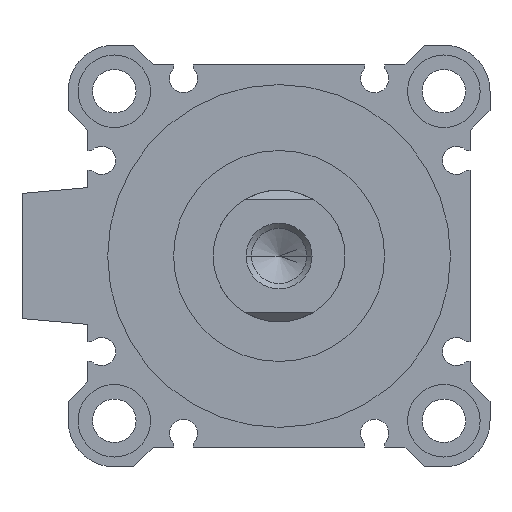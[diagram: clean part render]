
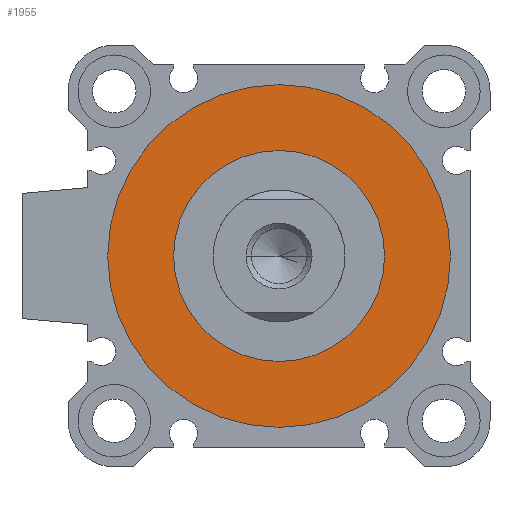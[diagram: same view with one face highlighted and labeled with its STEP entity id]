
A CAD part, left-side view. The second image highlights one B-rep face of the part: STEP entity #1955.
In plain terms, the highlighted planar face has unit normal (-1, 0, 0).
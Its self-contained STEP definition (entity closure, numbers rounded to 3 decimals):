
#60 = DIRECTION ( 'NONE',  ( 0., 0., -1. ) ) ;
#98 = EDGE_LOOP ( 'NONE', ( #4263, #2964 ) ) ;
#433 = AXIS2_PLACEMENT_3D ( 'NONE', #1023, #1400, #3761 ) ;
#659 = FACE_OUTER_BOUND ( 'NONE', #1790, .T. ) ;
#677 = CARTESIAN_POINT ( 'NONE',  ( 3., 0., 0. ) ) ;
#688 = VERTEX_POINT ( 'NONE', #3929 ) ;
#850 = AXIS2_PLACEMENT_3D ( 'NONE', #1041, #4919, #1066 ) ;
#1023 = CARTESIAN_POINT ( 'NONE',  ( 3., 0., 0. ) ) ;
#1041 = CARTESIAN_POINT ( 'NONE',  ( 3., 0., 0. ) ) ;
#1066 = DIRECTION ( 'NONE',  ( 0., 0., -1. ) ) ;
#1400 = DIRECTION ( 'NONE',  ( 1., 0., 0. ) ) ;
#1477 = DIRECTION ( 'NONE',  ( 0., 0., -1. ) ) ;
#1790 = EDGE_LOOP ( 'NONE', ( #3478, #2652 ) ) ;
#1844 = CARTESIAN_POINT ( 'NONE',  ( 3., 0., 26. ) ) ;
#1955 = ADVANCED_FACE ( 'NONE', ( #659, #4980 ), #2209, .F. ) ;
#2003 = VERTEX_POINT ( 'NONE', #3357 ) ;
#2073 = DIRECTION ( 'NONE',  ( 1., 0., 0. ) ) ;
#2209 = PLANE ( 'NONE',  #433 ) ;
#2415 = EDGE_CURVE ( 'NONE', #2003, #688, #4893, .T. ) ;
#2512 = CIRCLE ( 'NONE', #4699, 16. ) ;
#2538 = VERTEX_POINT ( 'NONE', #1844 ) ;
#2588 = CIRCLE ( 'NONE', #3487, 26. ) ;
#2607 = AXIS2_PLACEMENT_3D ( 'NONE', #3858, #2073, #60 ) ;
#2652 = ORIENTED_EDGE ( 'NONE', *, *, #3554, .F. ) ;
#2964 = ORIENTED_EDGE ( 'NONE', *, *, #2415, .T. ) ;
#3049 = DIRECTION ( 'NONE',  ( 1., 0., 0. ) ) ;
#3142 = CARTESIAN_POINT ( 'NONE',  ( 3., 0., -26. ) ) ;
#3357 = CARTESIAN_POINT ( 'NONE',  ( 3., 0., -16. ) ) ;
#3478 = ORIENTED_EDGE ( 'NONE', *, *, #4219, .F. ) ;
#3487 = AXIS2_PLACEMENT_3D ( 'NONE', #4268, #3049, #1477 ) ;
#3554 = EDGE_CURVE ( 'NONE', #4043, #2538, #4793, .T. ) ;
#3761 = DIRECTION ( 'NONE',  ( 0., 1., 0. ) ) ;
#3834 = DIRECTION ( 'NONE',  ( 0., 0., -1. ) ) ;
#3858 = CARTESIAN_POINT ( 'NONE',  ( 3., 0., 0. ) ) ;
#3929 = CARTESIAN_POINT ( 'NONE',  ( 3., 0., 16. ) ) ;
#4043 = VERTEX_POINT ( 'NONE', #3142 ) ;
#4219 = EDGE_CURVE ( 'NONE', #2538, #4043, #2588, .T. ) ;
#4263 = ORIENTED_EDGE ( 'NONE', *, *, #4691, .T. ) ;
#4268 = CARTESIAN_POINT ( 'NONE',  ( 3., 0., 0. ) ) ;
#4691 = EDGE_CURVE ( 'NONE', #688, #2003, #2512, .T. ) ;
#4699 = AXIS2_PLACEMENT_3D ( 'NONE', #677, #4972, #3834 ) ;
#4793 = CIRCLE ( 'NONE', #2607, 26. ) ;
#4893 = CIRCLE ( 'NONE', #850, 16. ) ;
#4919 = DIRECTION ( 'NONE',  ( 1., 0., 0. ) ) ;
#4972 = DIRECTION ( 'NONE',  ( 1., 0., 0. ) ) ;
#4980 = FACE_BOUND ( 'NONE', #98, .T. ) ;
